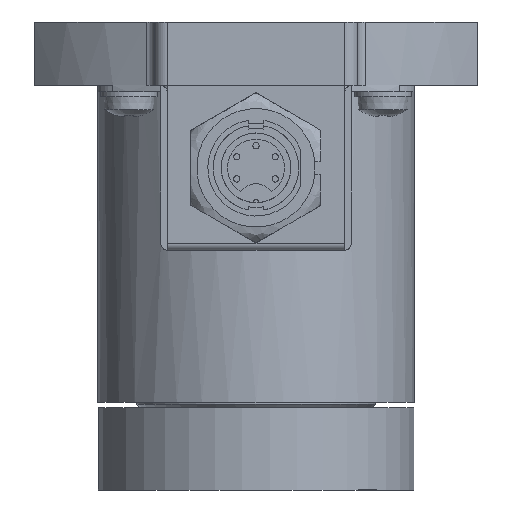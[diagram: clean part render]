
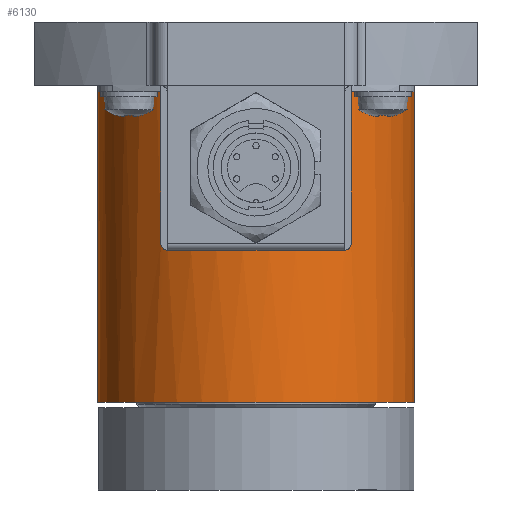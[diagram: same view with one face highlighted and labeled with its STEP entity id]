
A CAD part, left-side view. The second image highlights one B-rep face of the part: STEP entity #6130.
In plain terms, the highlighted cylindrical face has radius 25 mm (diameter 50 mm), a full revolution.
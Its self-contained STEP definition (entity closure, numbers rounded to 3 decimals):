
#1201=CARTESIAN_POINT('',(-19.494,-15.652,-1.));
#1202=VERTEX_POINT('',#1201);
#1203=CARTESIAN_POINT('',(-19.925,-15.1,-1.));
#1204=VERTEX_POINT('',#1203);
#1205=CARTESIAN_POINT('',(0.,0.,-1.));
#1206=DIRECTION('',(0.0,0.0,-1.0));
#1207=DIRECTION('',(0.0,1.0,0.0));
#1208=AXIS2_PLACEMENT_3D('',#1205,#1206,#1207);
#1209=CIRCLE('',#1208,25.);
#1210=EDGE_CURVE('',#1202,#1204,#1209,.T.);
#1346=CARTESIAN_POINT('',(-19.925,15.1,-1.));
#1347=VERTEX_POINT('',#1346);
#1348=CARTESIAN_POINT('',(-19.494,15.652,-1.));
#1349=VERTEX_POINT('',#1348);
#1350=CARTESIAN_POINT('',(0.,0.,-1.));
#1351=DIRECTION('',(0.0,0.0,-1.0));
#1352=DIRECTION('',(0.0,1.0,0.0));
#1353=AXIS2_PLACEMENT_3D('',#1350,#1351,#1352);
#1354=CIRCLE('',#1353,25.);
#1355=EDGE_CURVE('',#1347,#1349,#1354,.T.);
#5031=CARTESIAN_POINT('',(-19.494,15.652,0.));
#5032=VERTEX_POINT('',#5031);
#5033=CARTESIAN_POINT('',(-19.494,15.652,-1.));
#5034=DIRECTION('',(0.0,0.0,1.0));
#5035=VECTOR('',#5034,1.);
#5036=LINE('',#5033,#5035);
#5037=EDGE_CURVE('',#1349,#5032,#5036,.T.);
#5062=CARTESIAN_POINT('',(-20.,15.,-1.1));
#5063=VERTEX_POINT('',#5062);
#5064=CARTESIAN_POINT('',(-20.,15.,-1.1));
#5065=CARTESIAN_POINT('',(-20.,15.,-1.087));
#5066=CARTESIAN_POINT('',(-19.998,15.003,-1.073));
#5067=CARTESIAN_POINT('',(-19.99,15.013,-1.048));
#5068=CARTESIAN_POINT('',(-19.984,15.021,-1.038));
#5069=CARTESIAN_POINT('',(-19.971,15.039,-1.02));
#5070=CARTESIAN_POINT('',(-19.962,15.05,-1.012));
#5071=CARTESIAN_POINT('',(-19.944,15.075,-1.002));
#5072=CARTESIAN_POINT('',(-19.934,15.088,-1.));
#5073=CARTESIAN_POINT('',(-19.925,15.1,-1.));
#5074=B_SPLINE_CURVE_WITH_KNOTS('',3,(#5064,#5065,#5066,#5067,#5068,#5069,#5070,#5071,#5072,#5073),.UNSPECIFIED.,.F.,.U.,(4,2,2,2,4),(0.034,0.038,0.042,0.047,0.051),.UNSPECIFIED.);
#5075=EDGE_CURVE('',#5063,#1347,#5074,.T.);
#5109=CARTESIAN_POINT('',(-20.,15.,-24.9));
#5110=VERTEX_POINT('',#5109);
#5111=CARTESIAN_POINT('',(-20.,15.,-24.9));
#5112=DIRECTION('',(0.0,0.0,1.0));
#5113=VECTOR('',#5112,23.8);
#5114=LINE('',#5111,#5113);
#5115=EDGE_CURVE('',#5110,#5063,#5114,.T.);
#5140=CARTESIAN_POINT('',(-20.78,13.9,-26.));
#5141=VERTEX_POINT('',#5140);
#5142=CARTESIAN_POINT('',(-20.78,13.9,-26.0));
#5143=CARTESIAN_POINT('',(-20.651,14.093,-26.0));
#5144=CARTESIAN_POINT('',(-20.505,14.303,-25.945));
#5145=CARTESIAN_POINT('',(-20.379,14.482,-25.834));
#5146=CARTESIAN_POINT('',(-20.314,14.572,-25.777));
#5147=CARTESIAN_POINT('',(-20.255,14.654,-25.708));
#5148=CARTESIAN_POINT('',(-20.203,14.725,-25.628));
#5149=CARTESIAN_POINT('',(-20.128,14.829,-25.51));
#5150=CARTESIAN_POINT('',(-20.061,14.918,-25.352));
#5151=CARTESIAN_POINT('',(-20.027,14.964,-25.181));
#5152=CARTESIAN_POINT('',(-20.009,14.988,-25.089));
#5153=CARTESIAN_POINT('',(-20.,15.,-24.993));
#5154=CARTESIAN_POINT('',(-20.,15.,-24.9));
#5155=B_SPLINE_CURVE_WITH_KNOTS('',3,(#5142,#5143,#5144,#5145,#5146,#5147,#5148,#5149,#5150,#5151,#5152,#5153,#5154),.UNSPECIFIED.,.F.,.U.,(4,3,3,3,4),(0.181,0.251,0.287,0.338,0.366),.UNSPECIFIED.);
#5156=EDGE_CURVE('',#5141,#5110,#5155,.T.);
#5182=CARTESIAN_POINT('',(-20.78,-13.9,-26.));
#5183=VERTEX_POINT('',#5182);
#5184=CARTESIAN_POINT('',(0.,0.,-26.));
#5185=DIRECTION('',(0.0,0.0,-1.0));
#5186=DIRECTION('',(0.0,1.0,0.0));
#5187=AXIS2_PLACEMENT_3D('',#5184,#5185,#5186);
#5188=CIRCLE('',#5187,25.);
#5189=EDGE_CURVE('',#5183,#5141,#5188,.T.);
#5246=CARTESIAN_POINT('',(-19.494,-15.652,0.));
#5247=VERTEX_POINT('',#5246);
#5248=CARTESIAN_POINT('',(-19.494,-15.652,0.));
#5249=DIRECTION('',(0.0,0.0,-1.0));
#5250=VECTOR('',#5249,1.);
#5251=LINE('',#5248,#5250);
#5252=EDGE_CURVE('',#5247,#1202,#5251,.T.);
#5714=CARTESIAN_POINT('',(-20.,-15.,-1.1));
#5715=VERTEX_POINT('',#5714);
#5716=CARTESIAN_POINT('',(-19.925,-15.1,-1.));
#5717=CARTESIAN_POINT('',(-19.934,-15.087,-1.));
#5718=CARTESIAN_POINT('',(-19.945,-15.074,-1.003));
#5719=CARTESIAN_POINT('',(-19.964,-15.048,-1.014));
#5720=CARTESIAN_POINT('',(-19.973,-15.036,-1.022));
#5721=CARTESIAN_POINT('',(-19.986,-15.019,-1.041));
#5722=CARTESIAN_POINT('',(-19.991,-15.012,-1.051));
#5723=CARTESIAN_POINT('',(-19.998,-15.002,-1.075));
#5724=CARTESIAN_POINT('',(-20.,-15.,-1.088));
#5725=CARTESIAN_POINT('',(-20.,-15.,-1.1));
#5726=B_SPLINE_CURVE_WITH_KNOTS('',3,(#5716,#5717,#5718,#5719,#5720,#5721,#5722,#5723,#5724,#5725),.UNSPECIFIED.,.F.,.U.,(4,2,2,2,4),(0.017,0.022,0.027,0.03,0.034),.UNSPECIFIED.);
#5727=EDGE_CURVE('',#1204,#5715,#5726,.T.);
#5788=CARTESIAN_POINT('',(-20.,-15.,-24.9));
#5789=VERTEX_POINT('',#5788);
#5790=CARTESIAN_POINT('',(-20.,-15.,-1.1));
#5791=DIRECTION('',(0.0,0.0,-1.0));
#5792=VECTOR('',#5791,23.8);
#5793=LINE('',#5790,#5792);
#5794=EDGE_CURVE('',#5715,#5789,#5793,.T.);
#6048=CARTESIAN_POINT('',(-20.,-15.,-24.9));
#6049=CARTESIAN_POINT('',(-20.,-15.0,-25.068));
#6050=CARTESIAN_POINT('',(-20.032,-14.958,-25.245));
#6051=CARTESIAN_POINT('',(-20.088,-14.882,-25.395));
#6052=CARTESIAN_POINT('',(-20.124,-14.834,-25.491));
#6053=CARTESIAN_POINT('',(-20.169,-14.773,-25.576));
#6054=CARTESIAN_POINT('',(-20.216,-14.708,-25.647));
#6055=CARTESIAN_POINT('',(-20.319,-14.566,-25.8));
#6056=CARTESIAN_POINT('',(-20.455,-14.375,-25.913));
#6057=CARTESIAN_POINT('',(-20.592,-14.177,-25.965));
#6058=CARTESIAN_POINT('',(-20.656,-14.084,-25.989));
#6059=CARTESIAN_POINT('',(-20.719,-13.99,-26.0));
#6060=CARTESIAN_POINT('',(-20.78,-13.9,-26.0));
#6061=B_SPLINE_CURVE_WITH_KNOTS('',3,(#6048,#6049,#6050,#6051,#6052,#6053,#6054,#6055,#6056,#6057,#6058,#6059,#6060),.UNSPECIFIED.,.F.,.U.,(4,3,3,3,4),(0.366,0.417,0.449,0.518,0.551),.UNSPECIFIED.);
#6062=EDGE_CURVE('',#5789,#5183,#6061,.T.);
#6094=CARTESIAN_POINT('',(0.,0.,-25.));
#6095=DIRECTION('',(0.,0.,-1.0));
#6096=DIRECTION('',(0.0,1.0,0.0));
#6097=AXIS2_PLACEMENT_3D('',#6094,#6095,#6096);
#6098=CYLINDRICAL_SURFACE('',#6097,25.);
#6099=ORIENTED_EDGE('',*,*,#5037,.T.);
#6100=CARTESIAN_POINT('',(0.,0.,0.0));
#6101=DIRECTION('',(0.0,0.0,1.0));
#6102=DIRECTION('',(0.0,1.0,0.0));
#6103=AXIS2_PLACEMENT_3D('',#6100,#6101,#6102);
#6104=CIRCLE('',#6103,25.);
#6105=EDGE_CURVE('',#5247,#5032,#6104,.T.);
#6106=ORIENTED_EDGE('',*,*,#6105,.F.);
#6107=ORIENTED_EDGE('',*,*,#5252,.T.);
#6108=ORIENTED_EDGE('',*,*,#1210,.T.);
#6109=ORIENTED_EDGE('',*,*,#5727,.T.);
#6110=ORIENTED_EDGE('',*,*,#5794,.T.);
#6111=ORIENTED_EDGE('',*,*,#6062,.T.);
#6112=ORIENTED_EDGE('',*,*,#5189,.T.);
#6113=ORIENTED_EDGE('',*,*,#5156,.T.);
#6114=ORIENTED_EDGE('',*,*,#5115,.T.);
#6115=ORIENTED_EDGE('',*,*,#5075,.T.);
#6116=ORIENTED_EDGE('',*,*,#1355,.T.);
#6117=EDGE_LOOP('',(#6099,#6106,#6107,#6108,#6109,#6110,#6111,#6112,#6113,#6114,#6115,#6116));
#6118=FACE_OUTER_BOUND('',#6117,.T.);
#6119=CARTESIAN_POINT('',(0.,25.0,-50.0));
#6120=VERTEX_POINT('',#6119);
#6121=CARTESIAN_POINT('',(0.,0.,-50.0));
#6122=DIRECTION('',(0.0,0.0,-1.0));
#6123=DIRECTION('',(0.0,1.0,0.0));
#6124=AXIS2_PLACEMENT_3D('',#6121,#6122,#6123);
#6125=CIRCLE('',#6124,25.);
#6126=EDGE_CURVE('',#6120,#6120,#6125,.T.);
#6127=ORIENTED_EDGE('',*,*,#6126,.F.);
#6128=EDGE_LOOP('',(#6127));
#6129=FACE_BOUND('',#6128,.T.);
#6130=ADVANCED_FACE('',(#6118,#6129),#6098,.T.);
